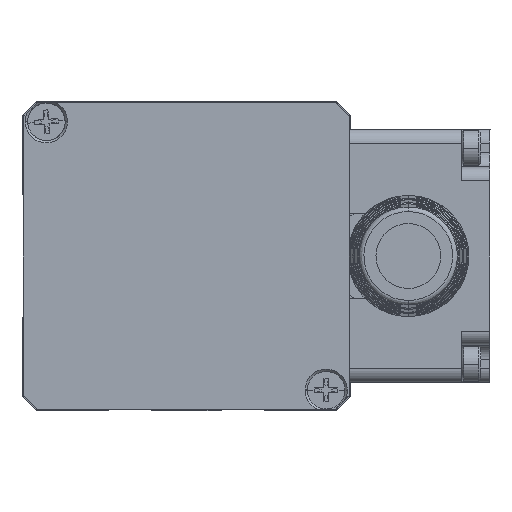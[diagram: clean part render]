
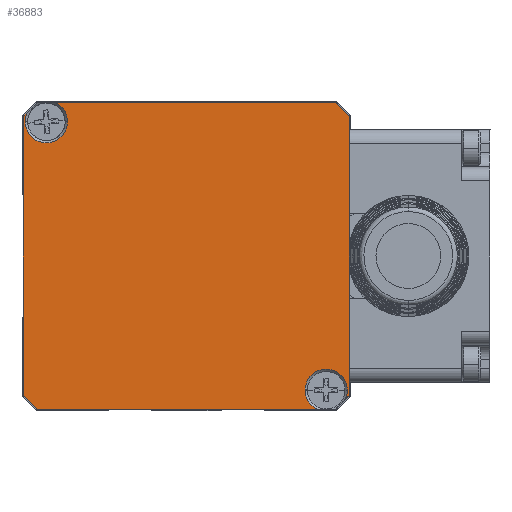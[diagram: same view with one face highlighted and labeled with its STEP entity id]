
A CAD part, front view. The second image highlights one B-rep face of the part: STEP entity #36883.
In plain terms, the highlighted planar face has unit normal (0, -1, 0).
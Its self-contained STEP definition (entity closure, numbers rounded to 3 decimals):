
#357 = VECTOR ( 'NONE', #31367, 1000. ) ;
#418 = LINE ( 'NONE', #12528, #39691 ) ;
#689 = ORIENTED_EDGE ( 'NONE', *, *, #31446, .F. ) ;
#935 = DIRECTION ( 'NONE',  ( 0., 1., 0. ) ) ;
#1792 = EDGE_CURVE ( 'NONE', #16090, #16509, #35494, .T. ) ;
#1929 = DIRECTION ( 'NONE',  ( -1., 0., 0. ) ) ;
#3368 = CARTESIAN_POINT ( 'NONE',  ( -15.85, -35.5, -15.35 ) ) ;
#4043 = CARTESIAN_POINT ( 'NONE',  ( 0., -35.5, 1. ) ) ;
#4639 = DIRECTION ( 'NONE',  ( 1., 0., 0. ) ) ;
#4658 = CARTESIAN_POINT ( 'NONE',  ( 17.15, -35.5, -13.3 ) ) ;
#5441 = ORIENTED_EDGE ( 'NONE', *, *, #39388, .F. ) ;
#5654 = LINE ( 'NONE', #14526, #29957 ) ;
#6247 = EDGE_CURVE ( 'NONE', #17069, #27471, #36073, .T. ) ;
#6250 = LINE ( 'NONE', #18814, #357 ) ;
#7342 = ORIENTED_EDGE ( 'NONE', *, *, #19217, .F. ) ;
#7441 = FACE_OUTER_BOUND ( 'NONE', #11784, .T. ) ;
#7485 = DIRECTION ( 'NONE',  ( 0., -1., 0. ) ) ;
#7552 = DIRECTION ( 'NONE',  ( -0.707, 0., -0.707 ) ) ;
#7562 = ORIENTED_EDGE ( 'NONE', *, *, #1792, .F. ) ;
#7631 = CARTESIAN_POINT ( 'NONE',  ( 13.973, -35.5, -15.35 ) ) ;
#7884 = DIRECTION ( 'NONE',  ( -1., 0., 0. ) ) ;
#7918 = EDGE_CURVE ( 'NONE', #19635, #33990, #15735, .T. ) ;
#8026 = ORIENTED_EDGE ( 'NONE', *, *, #38073, .T. ) ;
#8217 = CARTESIAN_POINT ( 'NONE',  ( 17.35, -35.5, -13.85 ) ) ;
#8222 = VERTEX_POINT ( 'NONE', #24229 ) ;
#8396 = CARTESIAN_POINT ( 'NONE',  ( 17.35, -35.5, 15.85 ) ) ;
#8964 = VECTOR ( 'NONE', #16861, 1000. ) ;
#9169 = EDGE_CURVE ( 'NONE', #19275, #19635, #24037, .T. ) ;
#10934 = VERTEX_POINT ( 'NONE', #4658 ) ;
#11784 = EDGE_LOOP ( 'NONE', ( #11865, #38167, #689, #7562, #8026, #28949, #13975, #12553, #17908, #5441, #15936, #40639, #7342, #35030 ) ) ;
#11865 = ORIENTED_EDGE ( 'NONE', *, *, #36529, .F. ) ;
#12528 = CARTESIAN_POINT ( 'NONE',  ( -17.35, -35.5, -13.85 ) ) ;
#12553 = ORIENTED_EDGE ( 'NONE', *, *, #7918, .F. ) ;
#13416 = CARTESIAN_POINT ( 'NONE',  ( 15.85, -35.5, 17.35 ) ) ;
#13759 = VECTOR ( 'NONE', #30921, 1000. ) ;
#13975 = ORIENTED_EDGE ( 'NONE', *, *, #34212, .T. ) ;
#14234 = LINE ( 'NONE', #30062, #22017 ) ;
#14526 = CARTESIAN_POINT ( 'NONE',  ( -15.85, -35.5, 17.35 ) ) ;
#15561 = AXIS2_PLACEMENT_3D ( 'NONE', #22177, #7485, #34803 ) ;
#15645 = CARTESIAN_POINT ( 'NONE',  ( -17.35, -35.5, -13.85 ) ) ;
#15735 = LINE ( 'NONE', #22725, #35900 ) ;
#15936 = ORIENTED_EDGE ( 'NONE', *, *, #17239, .F. ) ;
#16090 = VERTEX_POINT ( 'NONE', #22997 ) ;
#16489 = EDGE_CURVE ( 'NONE', #18949, #28681, #18377, .T. ) ;
#16509 = VERTEX_POINT ( 'NONE', #29227 ) ;
#16861 = DIRECTION ( 'NONE',  ( -0.707, 0., 0.707 ) ) ;
#17069 = VERTEX_POINT ( 'NONE', #8396 ) ;
#17239 = EDGE_CURVE ( 'NONE', #27705, #10934, #28688, .T. ) ;
#17783 = DIRECTION ( 'NONE',  ( -1., 0., 0. ) ) ;
#17908 = ORIENTED_EDGE ( 'NONE', *, *, #9169, .F. ) ;
#18102 = DIRECTION ( 'NONE',  ( 1., 0., 0. ) ) ;
#18377 = LINE ( 'NONE', #21674, #13759 ) ;
#18814 = CARTESIAN_POINT ( 'NONE',  ( 15.85, -35.5, -15.35 ) ) ;
#18949 = VERTEX_POINT ( 'NONE', #15645 ) ;
#19217 = EDGE_CURVE ( 'NONE', #17069, #25290, #22129, .T. ) ;
#19275 = VERTEX_POINT ( 'NONE', #38067 ) ;
#19635 = VERTEX_POINT ( 'NONE', #7631 ) ;
#20019 = DIRECTION ( 'NONE',  ( 0., -1., 0. ) ) ;
#21107 = DIRECTION ( 'NONE',  ( 0., -1., 0. ) ) ;
#21674 = CARTESIAN_POINT ( 'NONE',  ( -17.35, -35.5, -15.35 ) ) ;
#21815 = EDGE_CURVE ( 'NONE', #8222, #26211, #22976, .T. ) ;
#22017 = VECTOR ( 'NONE', #18102, 1000. ) ;
#22107 = DIRECTION ( 'NONE',  ( -1., 0., 0. ) ) ;
#22129 = LINE ( 'NONE', #34958, #29371 ) ;
#22177 = CARTESIAN_POINT ( 'NONE',  ( 14.9, -35.5, -13.3 ) ) ;
#22389 = DIRECTION ( 'NONE',  ( 0.707, 0., -0.707 ) ) ;
#22725 = CARTESIAN_POINT ( 'NONE',  ( -17.35, -35.5, -15.35 ) ) ;
#22757 = AXIS2_PLACEMENT_3D ( 'NONE', #28184, #24889, #31902 ) ;
#22963 = DIRECTION ( 'NONE',  ( 0., 0., -1. ) ) ;
#22976 = CIRCLE ( 'NONE', #34179, 2.25 ) ;
#22997 = CARTESIAN_POINT ( 'NONE',  ( -16.93, -35.5, 16.27 ) ) ;
#24037 = CIRCLE ( 'NONE', #22757, 2.25 ) ;
#24229 = CARTESIAN_POINT ( 'NONE',  ( -12.65, -35.5, 15.3 ) ) ;
#24815 = CARTESIAN_POINT ( 'NONE',  ( -13.973, -35.5, 17.35 ) ) ;
#24889 = DIRECTION ( 'NONE',  ( 0., -1., 0. ) ) ;
#25290 = VERTEX_POINT ( 'NONE', #8217 ) ;
#26125 = CARTESIAN_POINT ( 'NONE',  ( 17.35, -35.5, 15.85 ) ) ;
#26211 = VERTEX_POINT ( 'NONE', #24815 ) ;
#26931 = CARTESIAN_POINT ( 'NONE',  ( 14.9, -35.5, -13.3 ) ) ;
#27471 = VERTEX_POINT ( 'NONE', #13416 ) ;
#27705 = VERTEX_POINT ( 'NONE', #36046 ) ;
#28184 = CARTESIAN_POINT ( 'NONE',  ( 14.9, -35.5, -13.3 ) ) ;
#28681 = VERTEX_POINT ( 'NONE', #37745 ) ;
#28688 = CIRCLE ( 'NONE', #15561, 2.25 ) ;
#28949 = ORIENTED_EDGE ( 'NONE', *, *, #16489, .F. ) ;
#29152 = AXIS2_PLACEMENT_3D ( 'NONE', #33463, #21107, #17783 ) ;
#29227 = CARTESIAN_POINT ( 'NONE',  ( -17.15, -35.5, 15.3 ) ) ;
#29371 = VECTOR ( 'NONE', #22963, 1000. ) ;
#29957 = VECTOR ( 'NONE', #7552, 1000. ) ;
#30035 = CARTESIAN_POINT ( 'NONE',  ( -14.9, -35.5, 15.3 ) ) ;
#30062 = CARTESIAN_POINT ( 'NONE',  ( -17.35, -35.5, 17.35 ) ) ;
#30244 = CIRCLE ( 'NONE', #36235, 2.25 ) ;
#30921 = DIRECTION ( 'NONE',  ( 0., 0., 1. ) ) ;
#31367 = DIRECTION ( 'NONE',  ( 0.707, 0., 0.707 ) ) ;
#31446 = EDGE_CURVE ( 'NONE', #16509, #8222, #38471, .T. ) ;
#31629 = EDGE_CURVE ( 'NONE', #27705, #25290, #6250, .T. ) ;
#31902 = DIRECTION ( 'NONE',  ( -1., 0., 0. ) ) ;
#32614 = DIRECTION ( 'NONE',  ( 0., -1., 0. ) ) ;
#33463 = CARTESIAN_POINT ( 'NONE',  ( -14.9, -35.5, 15.3 ) ) ;
#33990 = VERTEX_POINT ( 'NONE', #3368 ) ;
#34179 = AXIS2_PLACEMENT_3D ( 'NONE', #38661, #32614, #7884 ) ;
#34212 = EDGE_CURVE ( 'NONE', #18949, #33990, #418, .T. ) ;
#34803 = DIRECTION ( 'NONE',  ( -1., 0., 0. ) ) ;
#34958 = CARTESIAN_POINT ( 'NONE',  ( 17.35, -35.5, -15.35 ) ) ;
#35030 = ORIENTED_EDGE ( 'NONE', *, *, #6247, .T. ) ;
#35494 = CIRCLE ( 'NONE', #37476, 2.25 ) ;
#35529 = PLANE ( 'NONE',  #38589 ) ;
#35900 = VECTOR ( 'NONE', #22107, 1000. ) ;
#36046 = CARTESIAN_POINT ( 'NONE',  ( 16.93, -35.5, -14.27 ) ) ;
#36073 = LINE ( 'NONE', #26125, #8964 ) ;
#36235 = AXIS2_PLACEMENT_3D ( 'NONE', #26931, #39622, #40028 ) ;
#36529 = EDGE_CURVE ( 'NONE', #26211, #27471, #14234, .T. ) ;
#36883 = ADVANCED_FACE ( 'NONE', ( #7441 ), #35529, .F. ) ;
#37476 = AXIS2_PLACEMENT_3D ( 'NONE', #30035, #20019, #1929 ) ;
#37745 = CARTESIAN_POINT ( 'NONE',  ( -17.35, -35.5, 15.85 ) ) ;
#38067 = CARTESIAN_POINT ( 'NONE',  ( 12.65, -35.5, -13.3 ) ) ;
#38073 = EDGE_CURVE ( 'NONE', #16090, #28681, #5654, .T. ) ;
#38167 = ORIENTED_EDGE ( 'NONE', *, *, #21815, .F. ) ;
#38471 = CIRCLE ( 'NONE', #29152, 2.25 ) ;
#38589 = AXIS2_PLACEMENT_3D ( 'NONE', #4043, #935, #4639 ) ;
#38661 = CARTESIAN_POINT ( 'NONE',  ( -14.9, -35.5, 15.3 ) ) ;
#39388 = EDGE_CURVE ( 'NONE', #10934, #19275, #30244, .T. ) ;
#39622 = DIRECTION ( 'NONE',  ( 0., -1., 0. ) ) ;
#39691 = VECTOR ( 'NONE', #22389, 1000. ) ;
#40028 = DIRECTION ( 'NONE',  ( -1., 0., 0. ) ) ;
#40639 = ORIENTED_EDGE ( 'NONE', *, *, #31629, .T. ) ;
